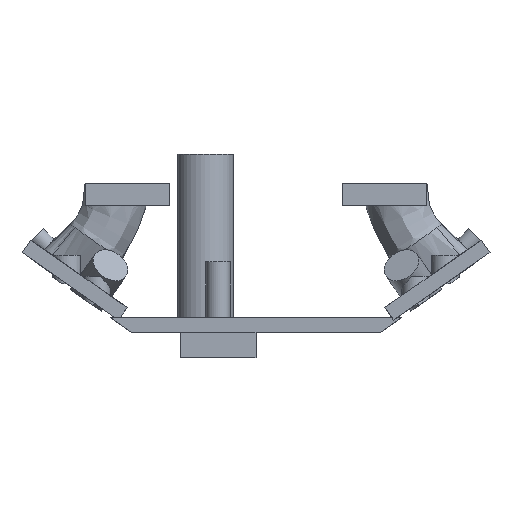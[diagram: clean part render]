
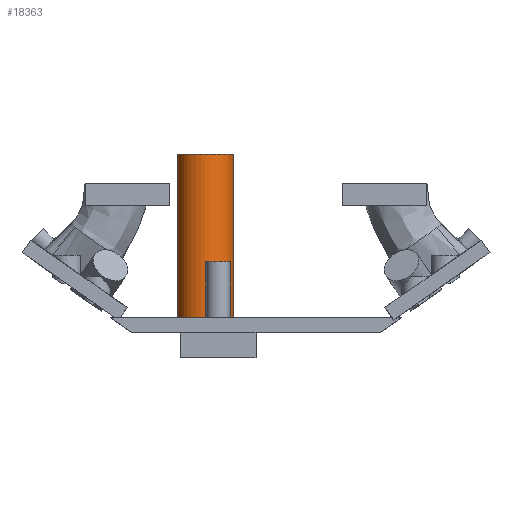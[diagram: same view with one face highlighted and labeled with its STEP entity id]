
A CAD part, left-side view. The second image highlights one B-rep face of the part: STEP entity #18363.
In plain terms, the highlighted cylindrical face has radius 22 mm (diameter 44 mm), a full revolution.
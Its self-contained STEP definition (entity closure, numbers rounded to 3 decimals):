
#98 = PLANE('',#99);
#99 = AXIS2_PLACEMENT_3D('',#100,#101,#102);
#100 = CARTESIAN_POINT('',(172.25,2.523,316.));
#101 = DIRECTION('',(0.,0.,1.));
#102 = DIRECTION('',(1.,0.,-0.));
#5122 = EDGE_CURVE('',#5123,#5123,#5125,.T.);
#5123 = VERTEX_POINT('',#5124);
#5124 = CARTESIAN_POINT('',(447.,40.,316.));
#5125 = SURFACE_CURVE('',#5126,(#5131,#5138),.PCURVE_S1.);
#5126 = CIRCLE('',#5127,22.);
#5127 = AXIS2_PLACEMENT_3D('',#5128,#5129,#5130);
#5128 = CARTESIAN_POINT('',(425.,40.,316.));
#5129 = DIRECTION('',(0.,0.,1.));
#5130 = DIRECTION('',(1.,0.,-0.));
#5131 = PCURVE('',#98,#5132);
#5132 = DEFINITIONAL_REPRESENTATION('',(#5133),#5137);
#5133 = CIRCLE('',#5134,22.);
#5134 = AXIS2_PLACEMENT_2D('',#5135,#5136);
#5135 = CARTESIAN_POINT('',(252.75,37.477));
#5136 = DIRECTION('',(1.,0.));
#5137 = ( GEOMETRIC_REPRESENTATION_CONTEXT(2) 
PARAMETRIC_REPRESENTATION_CONTEXT() REPRESENTATION_CONTEXT('2D SPACE',''
  ) );
#5138 = PCURVE('',#5139,#5144);
#5139 = CYLINDRICAL_SURFACE('',#5140,22.);
#5140 = AXIS2_PLACEMENT_3D('',#5141,#5142,#5143);
#5141 = CARTESIAN_POINT('',(425.,40.,306.));
#5142 = DIRECTION('',(0.,0.,1.));
#5143 = DIRECTION('',(1.,0.,-0.));
#5144 = DEFINITIONAL_REPRESENTATION('',(#5145),#5149);
#5145 = LINE('',#5146,#5147);
#5146 = CARTESIAN_POINT('',(0.,10.));
#5147 = VECTOR('',#5148,1.);
#5148 = DIRECTION('',(1.,0.));
#5149 = ( GEOMETRIC_REPRESENTATION_CONTEXT(2) 
PARAMETRIC_REPRESENTATION_CONTEXT() REPRESENTATION_CONTEXT('2D SPACE',''
  ) );
#18363 = ADVANCED_FACE('',(#18364),#5139,.T.);
#18364 = FACE_BOUND('',#18365,.T.);
#18365 = EDGE_LOOP('',(#18366,#18389,#18416,#18417));
#18366 = ORIENTED_EDGE('',*,*,#18367,.T.);
#18367 = EDGE_CURVE('',#5123,#18368,#18370,.T.);
#18368 = VERTEX_POINT('',#18369);
#18369 = CARTESIAN_POINT('',(447.,40.,445.));
#18370 = SEAM_CURVE('',#18371,(#18375,#18382),.PCURVE_S1.);
#18371 = LINE('',#18372,#18373);
#18372 = CARTESIAN_POINT('',(447.,40.,306.));
#18373 = VECTOR('',#18374,1.);
#18374 = DIRECTION('',(0.,0.,1.));
#18375 = PCURVE('',#5139,#18376);
#18376 = DEFINITIONAL_REPRESENTATION('',(#18377),#18381);
#18377 = LINE('',#18378,#18379);
#18378 = CARTESIAN_POINT('',(6.283,-0.));
#18379 = VECTOR('',#18380,1.);
#18380 = DIRECTION('',(0.,1.));
#18381 = ( GEOMETRIC_REPRESENTATION_CONTEXT(2) 
PARAMETRIC_REPRESENTATION_CONTEXT() REPRESENTATION_CONTEXT('2D SPACE',''
  ) );
#18382 = PCURVE('',#5139,#18383);
#18383 = DEFINITIONAL_REPRESENTATION('',(#18384),#18388);
#18384 = LINE('',#18385,#18386);
#18385 = CARTESIAN_POINT('',(0.,-0.));
#18386 = VECTOR('',#18387,1.);
#18387 = DIRECTION('',(0.,1.));
#18388 = ( GEOMETRIC_REPRESENTATION_CONTEXT(2) 
PARAMETRIC_REPRESENTATION_CONTEXT() REPRESENTATION_CONTEXT('2D SPACE',''
  ) );
#18389 = ORIENTED_EDGE('',*,*,#18390,.F.);
#18390 = EDGE_CURVE('',#18368,#18368,#18391,.T.);
#18391 = SURFACE_CURVE('',#18392,(#18397,#18404),.PCURVE_S1.);
#18392 = CIRCLE('',#18393,22.);
#18393 = AXIS2_PLACEMENT_3D('',#18394,#18395,#18396);
#18394 = CARTESIAN_POINT('',(425.,40.,445.));
#18395 = DIRECTION('',(0.,0.,1.));
#18396 = DIRECTION('',(1.,0.,-0.));
#18397 = PCURVE('',#5139,#18398);
#18398 = DEFINITIONAL_REPRESENTATION('',(#18399),#18403);
#18399 = LINE('',#18400,#18401);
#18400 = CARTESIAN_POINT('',(0.,139.));
#18401 = VECTOR('',#18402,1.);
#18402 = DIRECTION('',(1.,0.));
#18403 = ( GEOMETRIC_REPRESENTATION_CONTEXT(2) 
PARAMETRIC_REPRESENTATION_CONTEXT() REPRESENTATION_CONTEXT('2D SPACE',''
  ) );
#18404 = PCURVE('',#18405,#18410);
#18405 = PLANE('',#18406);
#18406 = AXIS2_PLACEMENT_3D('',#18407,#18408,#18409);
#18407 = CARTESIAN_POINT('',(425.,40.,445.));
#18408 = DIRECTION('',(0.,0.,1.));
#18409 = DIRECTION('',(1.,0.,-0.));
#18410 = DEFINITIONAL_REPRESENTATION('',(#18411),#18415);
#18411 = CIRCLE('',#18412,22.);
#18412 = AXIS2_PLACEMENT_2D('',#18413,#18414);
#18413 = CARTESIAN_POINT('',(0.,0.));
#18414 = DIRECTION('',(1.,0.));
#18415 = ( GEOMETRIC_REPRESENTATION_CONTEXT(2) 
PARAMETRIC_REPRESENTATION_CONTEXT() REPRESENTATION_CONTEXT('2D SPACE',''
  ) );
#18416 = ORIENTED_EDGE('',*,*,#18367,.F.);
#18417 = ORIENTED_EDGE('',*,*,#5122,.T.);
